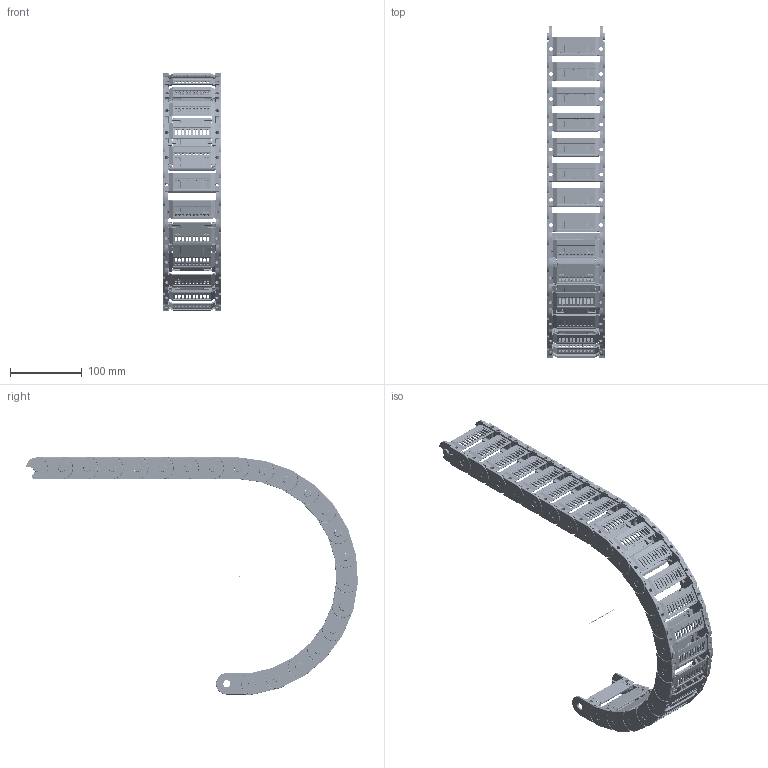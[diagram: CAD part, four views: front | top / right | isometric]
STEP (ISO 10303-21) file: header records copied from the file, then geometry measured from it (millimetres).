
FILE_DESCRIPTION((''),'2;1');
FILE_NAME('C:\Uebbing\PARAMETERKETTEN\KOLIBRI\Kol_30_080_0\KOLIBRI 30_080_0_R150.stp','2012-03-05T10:12:08',('Uebbing'),(''),'Autodesk Inventor 10','Autodesk Inventor 10','');
FILE_SCHEMA(('AUTOMOTIVE_DESIGN { 1 0 10303 214 1 1 1 1 }'));
Length unit declared in the file: millimetre
Products named in the file (5): KOLIBRI 30_080_0_PARAMETRISCH; Achse; Kol_30_080_0 Glied; Kol 30_080_0 Lasche; Kol 30_080_0 Klappsteg
Assembly tree (25 placements, depth 3):
  KOLIBRI 30_080_0_PARAMETRISCH
    Achse
    Kol_30_080_0 Glied  x22
      Kol 30_080_0 Lasche
      Kol 30_080_0 Klappsteg
Bounding box: 80 x 461.73 x 330 mm (x, y, z)
Volume: 404683.6 mm3; surface area: 375915.7 mm2
Topology: 45 solids, 45 shells, 22267 faces, 61010 edges, 39427 vertices
Faces by surface type: bspline 8866, plane 8692, cylinder 3565, torus 858, cone 220, sphere 66
Full cylindrical faces by diameter (mm): 1 x1, 1.166 x22, 2.048 x22, 2.8 x132, 5.1 x22, 10 x22, 10.1 x22
Entity records: 39017 total; most frequent: CARTESIAN_POINT 14780, ORIENTED_EDGE 5468, DIRECTION 4277, EDGE_CURVE 2734, VERTEX_POINT 1781, VECTOR 1623, LINE 1623, AXIS2_PLACEMENT_3D 1327
